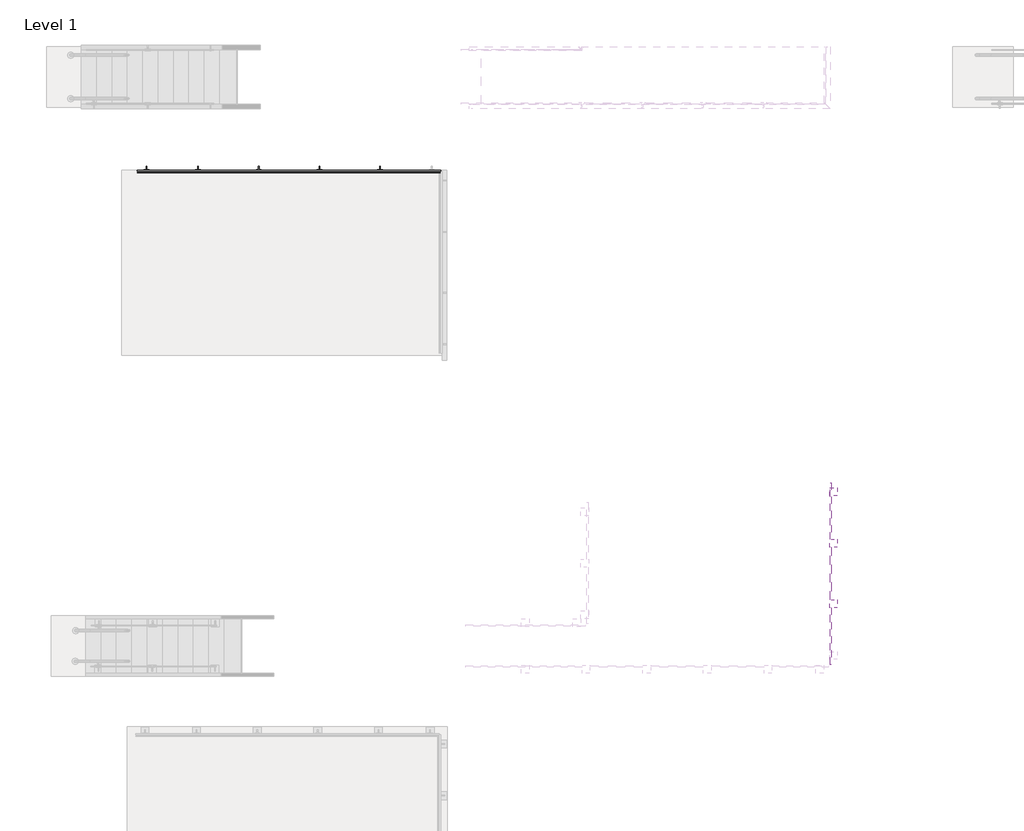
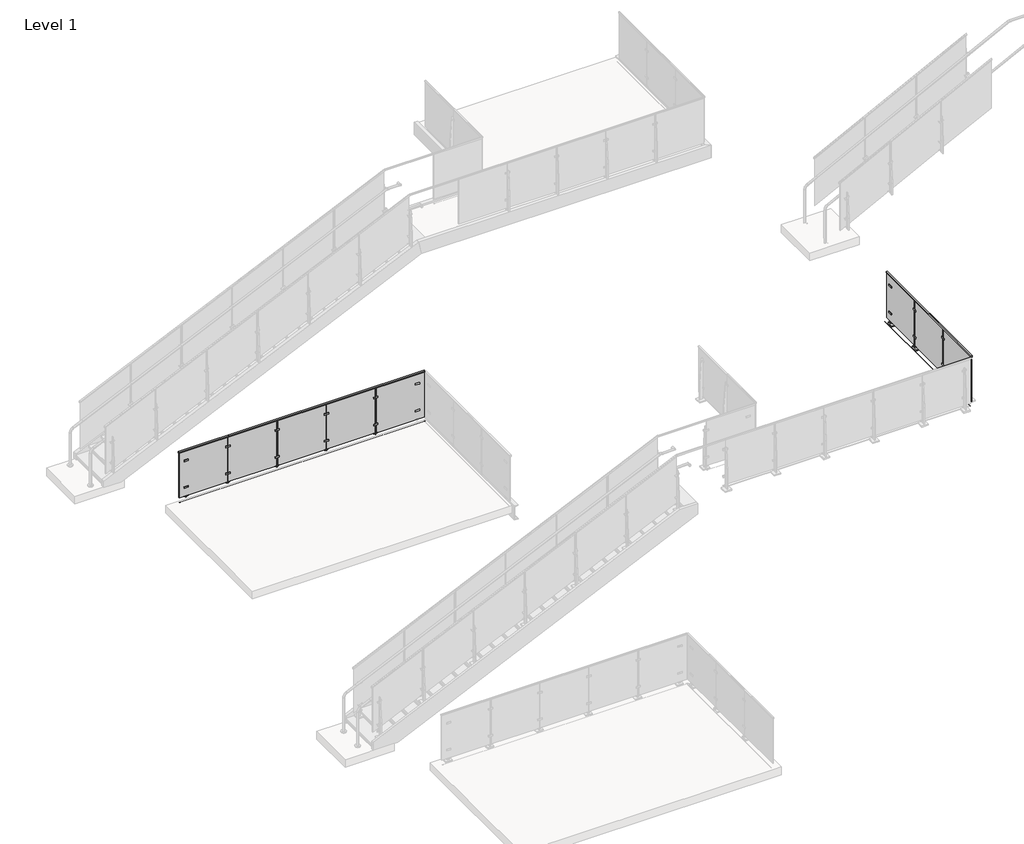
# One storey, part 13 of 37: 2 proxies, 2 railings.
"""IFC4 building model written with IfcOpenShell, lengths in millimetres."""

from ifc_helpers import new_model, si_unit, point, frame, frame_2d, origin, place, context, project, spatial, polyline, circle_curve, trimmed, segment, composite_curve, outline, extrude, transform, mapped, element, save
from components import baluster_end_post_viva_solo_top_mount_e11f810b, baluster_end_post_viva_solo_top_mount_welded_steel_channel_1b436ed5

model = new_model("IFC4")

# Units and contexts
model_context = context("Model", 3, world=origin())
ifc_project = project(units=[si_unit("LENGTHUNIT", "METRE", prefix="MILLI")], contexts=[model_context])

# Site, building, storey
site = spatial("IfcSite", under=ifc_project)
building = spatial("IfcBuilding", under=site)
storey = spatial("IfcBuildingStorey", under=building, Name="Level 1", Elevation=0.0)

# Proxies
placement = place(None, origin())
baluster_end_post_viva_solo_top_mount_shape = baluster_end_post_viva_solo_top_mount_e11f810b(model_context)
element("IfcBuildingElementProxy", 1, Name="Baluster-End-Post-VIVA-SOLO-Top Mount : ANCHORED TO CONCRETE_TOP MOUNT FOLD_STRAIGHT", ObjectType="Baluster-End-Post-VIVA-SOLO-Top Mount : ANCHORED TO CONCRETE_TOP MOUNT FOLD_STRAIGHT", at=placement, inside=storey, context=model_context, shape_type="MappedRepresentation", body=[
    mapped(baluster_end_post_viva_solo_top_mount_shape, transform((-1287.6055329, 6631.9636962, 3047.492), x_axis=(0.0, 1.0, 0.0), y_axis=(-1.0, 0.0, 0.0), z_axis=(0.0, 0.0, 1.0))),
])
baluster_end_post_viva_solo_top_mount_welded_steel_channel_shape = baluster_end_post_viva_solo_top_mount_welded_steel_channel_1b436ed5(model_context)
element("IfcBuildingElementProxy", 2, Name="Baluster-End-Post-VIVA-SOLO-Top Mount : WELDED STEEL CHANNEL_TOP MOUNT FOLD_STRAIGHT", ObjectType="Baluster-End-Post-VIVA-SOLO-Top Mount : WELDED STEEL CHANNEL_TOP MOUNT FOLD_STRAIGHT", at=placement, inside=storey, context=model_context, shape_type="MappedRepresentation", body=[
    mapped(baluster_end_post_viva_solo_top_mount_welded_steel_channel_shape, transform((-12860.5956451, 11817.5609615, -0.508), x_axis=(-1.0, 0.0, 0.0), y_axis=(0.0, -1.0, 0.0), z_axis=(0.0, 0.0, 1.0))),
])

# Railings
element("IfcRailing", 3, ObjectType="VIVA-SOLO-Glass-Top_Weld_Steel-Channel Mount-Straight", at=placement, inside=storey, context=model_context, shape_type="SweptSolid", body=[
    extrude(outline(composite_curve([segment(trimmed(circle_curve(frame_2d((11817.5609615, -0.254)), 0.254), [point((11817.3069615, -0.254))], [point((11817.8149615, -0.254))], False, "CARTESIAN"), True, "CONTINUOUS"), segment(trimmed(circle_curve(frame_2d((11817.5609615, -0.254)), 0.254), [point((11817.8149615, -0.254))], [point((11817.3069615, -0.254))], False, "CARTESIAN"), True, "CONTINUOUS")], self_intersect=False)), frame((-12860.5956451, 0.0, 0.0), z_axis=(1.0, 0.0, 0.0), x_axis=(0.0, 1.0, 0.0)), (0.0, 0.0, 1.0), 5080.0),
    extrude(outline(composite_curve([segment(trimmed(circle_curve(frame_2d((11817.5609615, -0.254)), 0.254), [point((11817.3069615, -0.254))], [point((11817.8149615, -0.254))], False, "CARTESIAN"), True, "CONTINUOUS"), segment(trimmed(circle_curve(frame_2d((11817.5609615, -0.254)), 0.254), [point((11817.8149615, -0.254))], [point((11817.3069615, -0.254))], False, "CARTESIAN"), True, "CONTINUOUS")], self_intersect=False)), frame((-12860.5956451, 0.0, 0.0), z_axis=(1.0, 0.0, 0.0), x_axis=(0.0, 1.0, 0.0)), (0.0, 0.0, 1.0), 5080.0),
    extrude(outline(polyline([(11842.6434615, 1079.5), (11864.8684615, 1079.5), (11864.8684615, 1054.1), (11860.1059615, 1054.1), (11860.1059615, 1074.7375), (11847.4059615, 1074.7375), (11847.4059615, 1054.1), (11842.6434615, 1054.1), (11842.6434615, 1079.5)])), frame((-12860.5956451, 0.0, 0.0), z_axis=(1.0, 0.0, 0.0), x_axis=(0.0, 1.0, 0.0)), (0.0, 0.0, 1.0), 5080.0),
    extrude(outline(polyline([(-8783.5125985, 11847.4059615), (-8783.5125985, 11860.1059615), (-7792.9125985, 11860.1059615), (-7792.9125985, 11847.4059615), (-8783.5125985, 11847.4059615)])), frame((0.0, 0.0, 76.2), z_axis=(0.0, 0.0, 1.0), x_axis=(1.0, 0.0, 0.0)), (0.0, 0.0, 1.0), 998.474),
    extrude(outline(polyline([(11869.6309615, 914.4), (11895.0309615, 914.4), (11933.1309615, 381.0), (11933.1309615, 38.1), (11869.6309615, 38.1), (11869.6309615, 914.4)])), frame((-8802.9456451, 0.0, 0.0), z_axis=(1.0, 0.0, 0.0), x_axis=(0.0, 1.0, 0.0)), (0.0, 0.0, 1.0), 12.7),
    extrude(outline(polyline([(-8841.0456451, 11860.1059615), (-8841.0456451, 11869.6309615), (-8752.1456451, 11869.6309615), (-8752.1456451, 11860.1059615), (-8841.0456451, 11860.1059615)])), frame((0.0, 0.0, 251.9910694), z_axis=(0.0, 0.0, 1.0), x_axis=(1.0, 0.0, 0.0)), (0.0, 0.0, 1.0), 31.75),
    extrude(outline(polyline([(-8841.0456451, 11860.1059615), (-8841.0456451, 11869.6309615), (-8752.1456451, 11869.6309615), (-8752.1456451, 11860.1059615), (-8841.0456451, 11860.1059615)])), frame((0.0, 0.0, 838.2992187), z_axis=(0.0, 0.0, 1.0), x_axis=(1.0, 0.0, 0.0)), (0.0, 0.0, 1.0), 31.75),
    extrude(outline(polyline([(-8841.0456451, 11837.8809615), (-8841.0456451, 11847.4059615), (-8752.1456451, 11847.4059615), (-8752.1456451, 11837.8809615), (-8841.0456451, 11837.8809615)])), frame((0.0, 0.0, 251.9910694), z_axis=(0.0, 0.0, 1.0), x_axis=(1.0, 0.0, 0.0)), (0.0, 0.0, 1.0), 31.75),
    extrude(outline(polyline([(-8841.0456451, 11837.8809615), (-8841.0456451, 11847.4059615), (-8752.1456451, 11847.4059615), (-8752.1456451, 11837.8809615), (-8841.0456451, 11837.8809615)])), frame((0.0, 0.0, 838.2992187), z_axis=(0.0, 0.0, 1.0), x_axis=(1.0, 0.0, 0.0)), (0.0, 0.0, 1.0), 31.75),
    extrude(outline(polyline([(76.2, -8752.1456451), (76.2, -8841.0456451), (69.85, -8841.0456451), (47.9353513, -8796.5956451), (69.85, -8752.1456451), (76.2, -8752.1456451)])), frame((0.0, 11847.4059615, 0.0), z_axis=(0.0, 1.0, 0.0), x_axis=(0.0, 0.0, 1.0)), (0.0, 0.0, 1.0), 12.7),
    extrude(outline(composite_curve([segment(trimmed(circle_curve(frame_2d((267.8660694, -8796.5956451)), 6.35), [point((267.8660694, -8790.2456451))], [point((267.8660694, -8802.9456451))], False, "CARTESIAN"), True, "CONTINUOUS"), segment(trimmed(circle_curve(frame_2d((267.8660694, -8796.5956451)), 6.35), [point((267.8660694, -8802.9456451))], [point((267.8660694, -8790.2456451))], False, "CARTESIAN"), True, "CONTINUOUS")], self_intersect=False)), frame((0.0, 11847.4059615, 0.0), z_axis=(0.0, 1.0, 0.0), x_axis=(0.0, 0.0, 1.0)), (0.0, 0.0, 1.0), 12.7),
    extrude(outline(composite_curve([segment(trimmed(circle_curve(frame_2d((854.1742187, -8796.5956451)), 6.35), [point((854.1742187, -8790.2456451))], [point((854.1742187, -8802.9456451))], False, "CARTESIAN"), True, "CONTINUOUS"), segment(trimmed(circle_curve(frame_2d((854.1742187, -8796.5956451)), 6.35), [point((854.1742187, -8802.9456451))], [point((854.1742187, -8790.2456451))], False, "CARTESIAN"), True, "CONTINUOUS")], self_intersect=False)), frame((0.0, 11847.4059615, 0.0), z_axis=(0.0, 1.0, 0.0), x_axis=(0.0, 0.0, 1.0)), (0.0, 0.0, 1.0), 12.7),
    extrude(outline(composite_curve([segment(trimmed(circle_curve(frame_2d((60.325, -8796.5956451)), 11.1125), [point((60.325, -8785.4831451))], [point((60.325, -8807.7081451))], False, "CARTESIAN"), True, "CONTINUOUS"), segment(trimmed(circle_curve(frame_2d((60.325, -8796.5956451)), 11.1125), [point((60.325, -8807.7081451))], [point((60.325, -8785.4831451))], False, "CARTESIAN"), True, "CONTINUOUS")], self_intersect=False)), frame((0.0, 11844.2309615, 0.0), z_axis=(0.0, 1.0, 0.0), x_axis=(0.0, 0.0, 1.0)), (0.0, 0.0, 1.0), 25.4),
    extrude(outline(polyline([(-9799.5125985, 11847.4059615), (-9799.5125985, 11860.1059615), (-8808.9125985, 11860.1059615), (-8808.9125985, 11847.4059615), (-9799.5125985, 11847.4059615)])), frame((0.0, 0.0, 76.2), z_axis=(0.0, 0.0, 1.0), x_axis=(1.0, 0.0, 0.0)), (0.0, 0.0, 1.0), 998.474),
    extrude(outline(polyline([(11869.6309615, 914.4), (11895.0309615, 914.4), (11933.1309615, 381.0), (11933.1309615, 38.1), (11869.6309615, 38.1), (11869.6309615, 914.4)])), frame((-9818.9456451, 0.0, 0.0), z_axis=(1.0, 0.0, 0.0), x_axis=(0.0, 1.0, 0.0)), (0.0, 0.0, 1.0), 12.7),
    extrude(outline(polyline([(-9857.0456451, 11860.1059615), (-9857.0456451, 11869.6309615), (-9768.1456451, 11869.6309615), (-9768.1456451, 11860.1059615), (-9857.0456451, 11860.1059615)])), frame((0.0, 0.0, 251.9910694), z_axis=(0.0, 0.0, 1.0), x_axis=(1.0, 0.0, 0.0)), (0.0, 0.0, 1.0), 31.75),
    extrude(outline(polyline([(-9857.0456451, 11860.1059615), (-9857.0456451, 11869.6309615), (-9768.1456451, 11869.6309615), (-9768.1456451, 11860.1059615), (-9857.0456451, 11860.1059615)])), frame((0.0, 0.0, 838.2992187), z_axis=(0.0, 0.0, 1.0), x_axis=(1.0, 0.0, 0.0)), (0.0, 0.0, 1.0), 31.75),
    extrude(outline(polyline([(-9857.0456451, 11837.8809615), (-9857.0456451, 11847.4059615), (-9768.1456451, 11847.4059615), (-9768.1456451, 11837.8809615), (-9857.0456451, 11837.8809615)])), frame((0.0, 0.0, 251.9910694), z_axis=(0.0, 0.0, 1.0), x_axis=(1.0, 0.0, 0.0)), (0.0, 0.0, 1.0), 31.75),
    extrude(outline(polyline([(-9857.0456451, 11837.8809615), (-9857.0456451, 11847.4059615), (-9768.1456451, 11847.4059615), (-9768.1456451, 11837.8809615), (-9857.0456451, 11837.8809615)])), frame((0.0, 0.0, 838.2992187), z_axis=(0.0, 0.0, 1.0), x_axis=(1.0, 0.0, 0.0)), (0.0, 0.0, 1.0), 31.75),
    extrude(outline(polyline([(76.2, -9768.1456451), (76.2, -9857.0456451), (69.85, -9857.0456451), (47.9353513, -9812.5956451), (69.85, -9768.1456451), (76.2, -9768.1456451)])), frame((0.0, 11847.4059615, 0.0), z_axis=(0.0, 1.0, 0.0), x_axis=(0.0, 0.0, 1.0)), (0.0, 0.0, 1.0), 12.7),
    extrude(outline(composite_curve([segment(trimmed(circle_curve(frame_2d((267.8660694, -9812.5956451)), 6.35), [point((267.8660694, -9806.2456451))], [point((267.8660694, -9818.9456451))], False, "CARTESIAN"), True, "CONTINUOUS"), segment(trimmed(circle_curve(frame_2d((267.8660694, -9812.5956451)), 6.35), [point((267.8660694, -9818.9456451))], [point((267.8660694, -9806.2456451))], False, "CARTESIAN"), True, "CONTINUOUS")], self_intersect=False)), frame((0.0, 11847.4059615, 0.0), z_axis=(0.0, 1.0, 0.0), x_axis=(0.0, 0.0, 1.0)), (0.0, 0.0, 1.0), 12.7),
    extrude(outline(composite_curve([segment(trimmed(circle_curve(frame_2d((854.1742187, -9812.5956451)), 6.35), [point((854.1742187, -9806.2456451))], [point((854.1742187, -9818.9456451))], False, "CARTESIAN"), True, "CONTINUOUS"), segment(trimmed(circle_curve(frame_2d((854.1742187, -9812.5956451)), 6.35), [point((854.1742187, -9818.9456451))], [point((854.1742187, -9806.2456451))], False, "CARTESIAN"), True, "CONTINUOUS")], self_intersect=False)), frame((0.0, 11847.4059615, 0.0), z_axis=(0.0, 1.0, 0.0), x_axis=(0.0, 0.0, 1.0)), (0.0, 0.0, 1.0), 12.7),
    extrude(outline(composite_curve([segment(trimmed(circle_curve(frame_2d((60.325, -9812.5956451)), 11.1125), [point((60.325, -9801.4831451))], [point((60.325, -9823.7081451))], False, "CARTESIAN"), True, "CONTINUOUS"), segment(trimmed(circle_curve(frame_2d((60.325, -9812.5956451)), 11.1125), [point((60.325, -9823.7081451))], [point((60.325, -9801.4831451))], False, "CARTESIAN"), True, "CONTINUOUS")], self_intersect=False)), frame((0.0, 11844.2309615, 0.0), z_axis=(0.0, 1.0, 0.0), x_axis=(0.0, 0.0, 1.0)), (0.0, 0.0, 1.0), 25.4),
    extrude(outline(polyline([(-10815.5125985, 11847.4059615), (-10815.5125985, 11860.1059615), (-9824.9125985, 11860.1059615), (-9824.9125985, 11847.4059615), (-10815.5125985, 11847.4059615)])), frame((0.0, 0.0, 76.2), z_axis=(0.0, 0.0, 1.0), x_axis=(1.0, 0.0, 0.0)), (0.0, 0.0, 1.0), 998.474),
    extrude(outline(polyline([(11869.6309615, 914.4), (11895.0309615, 914.4), (11933.1309615, 381.0), (11933.1309615, 38.1), (11869.6309615, 38.1), (11869.6309615, 914.4)])), frame((-10834.9456451, 0.0, 0.0), z_axis=(1.0, 0.0, 0.0), x_axis=(0.0, 1.0, 0.0)), (0.0, 0.0, 1.0), 12.7),
    extrude(outline(polyline([(-10873.0456451, 11860.1059615), (-10873.0456451, 11869.6309615), (-10784.1456451, 11869.6309615), (-10784.1456451, 11860.1059615), (-10873.0456451, 11860.1059615)])), frame((0.0, 0.0, 251.9910694), z_axis=(0.0, 0.0, 1.0), x_axis=(1.0, 0.0, 0.0)), (0.0, 0.0, 1.0), 31.75),
    extrude(outline(polyline([(-10873.0456451, 11860.1059615), (-10873.0456451, 11869.6309615), (-10784.1456451, 11869.6309615), (-10784.1456451, 11860.1059615), (-10873.0456451, 11860.1059615)])), frame((0.0, 0.0, 838.2992187), z_axis=(0.0, 0.0, 1.0), x_axis=(1.0, 0.0, 0.0)), (0.0, 0.0, 1.0), 31.75),
    extrude(outline(polyline([(-10873.0456451, 11837.8809615), (-10873.0456451, 11847.4059615), (-10784.1456451, 11847.4059615), (-10784.1456451, 11837.8809615), (-10873.0456451, 11837.8809615)])), frame((0.0, 0.0, 251.9910694), z_axis=(0.0, 0.0, 1.0), x_axis=(1.0, 0.0, 0.0)), (0.0, 0.0, 1.0), 31.75),
    extrude(outline(polyline([(-10873.0456451, 11837.8809615), (-10873.0456451, 11847.4059615), (-10784.1456451, 11847.4059615), (-10784.1456451, 11837.8809615), (-10873.0456451, 11837.8809615)])), frame((0.0, 0.0, 838.2992187), z_axis=(0.0, 0.0, 1.0), x_axis=(1.0, 0.0, 0.0)), (0.0, 0.0, 1.0), 31.75),
    extrude(outline(polyline([(76.2, -10784.1456451), (76.2, -10873.0456451), (69.85, -10873.0456451), (47.9353513, -10828.5956451), (69.85, -10784.1456451), (76.2, -10784.1456451)])), frame((0.0, 11847.4059615, 0.0), z_axis=(0.0, 1.0, 0.0), x_axis=(0.0, 0.0, 1.0)), (0.0, 0.0, 1.0), 12.7),
    extrude(outline(composite_curve([segment(trimmed(circle_curve(frame_2d((267.8660694, -10828.5956451)), 6.35), [point((267.8660694, -10822.2456451))], [point((267.8660694, -10834.9456451))], False, "CARTESIAN"), True, "CONTINUOUS"), segment(trimmed(circle_curve(frame_2d((267.8660694, -10828.5956451)), 6.35), [point((267.8660694, -10834.9456451))], [point((267.8660694, -10822.2456451))], False, "CARTESIAN"), True, "CONTINUOUS")], self_intersect=False)), frame((0.0, 11847.4059615, 0.0), z_axis=(0.0, 1.0, 0.0), x_axis=(0.0, 0.0, 1.0)), (0.0, 0.0, 1.0), 12.7),
    extrude(outline(composite_curve([segment(trimmed(circle_curve(frame_2d((854.1742187, -10828.5956451)), 6.35), [point((854.1742187, -10822.2456451))], [point((854.1742187, -10834.9456451))], False, "CARTESIAN"), True, "CONTINUOUS"), segment(trimmed(circle_curve(frame_2d((854.1742187, -10828.5956451)), 6.35), [point((854.1742187, -10834.9456451))], [point((854.1742187, -10822.2456451))], False, "CARTESIAN"), True, "CONTINUOUS")], self_intersect=False)), frame((0.0, 11847.4059615, 0.0), z_axis=(0.0, 1.0, 0.0), x_axis=(0.0, 0.0, 1.0)), (0.0, 0.0, 1.0), 12.7),
    extrude(outline(composite_curve([segment(trimmed(circle_curve(frame_2d((60.325, -10828.5956451)), 11.1125), [point((60.325, -10817.4831451))], [point((60.325, -10839.7081451))], False, "CARTESIAN"), True, "CONTINUOUS"), segment(trimmed(circle_curve(frame_2d((60.325, -10828.5956451)), 11.1125), [point((60.325, -10839.7081451))], [point((60.325, -10817.4831451))], False, "CARTESIAN"), True, "CONTINUOUS")], self_intersect=False)), frame((0.0, 11844.2309615, 0.0), z_axis=(0.0, 1.0, 0.0), x_axis=(0.0, 0.0, 1.0)), (0.0, 0.0, 1.0), 25.4),
    extrude(outline(polyline([(-11831.5125985, 11847.4059615), (-11831.5125985, 11860.1059615), (-10840.9125985, 11860.1059615), (-10840.9125985, 11847.4059615), (-11831.5125985, 11847.4059615)])), frame((0.0, 0.0, 76.2), z_axis=(0.0, 0.0, 1.0), x_axis=(1.0, 0.0, 0.0)), (0.0, 0.0, 1.0), 998.474),
    extrude(outline(polyline([(11869.6309615, 914.4), (11895.0309615, 914.4), (11933.1309615, 381.0), (11933.1309615, 38.1), (11869.6309615, 38.1), (11869.6309615, 914.4)])), frame((-11850.9456451, 0.0, 0.0), z_axis=(1.0, 0.0, 0.0), x_axis=(0.0, 1.0, 0.0)), (0.0, 0.0, 1.0), 12.7),
    extrude(outline(polyline([(-11889.0456451, 11860.1059615), (-11889.0456451, 11869.6309615), (-11800.1456451, 11869.6309615), (-11800.1456451, 11860.1059615), (-11889.0456451, 11860.1059615)])), frame((0.0, 0.0, 251.9910694), z_axis=(0.0, 0.0, 1.0), x_axis=(1.0, 0.0, 0.0)), (0.0, 0.0, 1.0), 31.75),
    extrude(outline(polyline([(-11889.0456451, 11860.1059615), (-11889.0456451, 11869.6309615), (-11800.1456451, 11869.6309615), (-11800.1456451, 11860.1059615), (-11889.0456451, 11860.1059615)])), frame((0.0, 0.0, 838.2992187), z_axis=(0.0, 0.0, 1.0), x_axis=(1.0, 0.0, 0.0)), (0.0, 0.0, 1.0), 31.75),
    extrude(outline(polyline([(-11889.0456451, 11837.8809615), (-11889.0456451, 11847.4059615), (-11800.1456451, 11847.4059615), (-11800.1456451, 11837.8809615), (-11889.0456451, 11837.8809615)])), frame((0.0, 0.0, 251.9910694), z_axis=(0.0, 0.0, 1.0), x_axis=(1.0, 0.0, 0.0)), (0.0, 0.0, 1.0), 31.75),
    extrude(outline(polyline([(-11889.0456451, 11837.8809615), (-11889.0456451, 11847.4059615), (-11800.1456451, 11847.4059615), (-11800.1456451, 11837.8809615), (-11889.0456451, 11837.8809615)])), frame((0.0, 0.0, 838.2992187), z_axis=(0.0, 0.0, 1.0), x_axis=(1.0, 0.0, 0.0)), (0.0, 0.0, 1.0), 31.75),
    extrude(outline(polyline([(76.2, -11800.1456451), (76.2, -11889.0456451), (69.85, -11889.0456451), (47.9353513, -11844.5956451), (69.85, -11800.1456451), (76.2, -11800.1456451)])), frame((0.0, 11847.4059615, 0.0), z_axis=(0.0, 1.0, 0.0), x_axis=(0.0, 0.0, 1.0)), (0.0, 0.0, 1.0), 12.7),
    extrude(outline(composite_curve([segment(trimmed(circle_curve(frame_2d((267.8660694, -11844.5956451)), 6.35), [point((267.8660694, -11838.2456451))], [point((267.8660694, -11850.9456451))], False, "CARTESIAN"), True, "CONTINUOUS"), segment(trimmed(circle_curve(frame_2d((267.8660694, -11844.5956451)), 6.35), [point((267.8660694, -11850.9456451))], [point((267.8660694, -11838.2456451))], False, "CARTESIAN"), True, "CONTINUOUS")], self_intersect=False)), frame((0.0, 11847.4059615, 0.0), z_axis=(0.0, 1.0, 0.0), x_axis=(0.0, 0.0, 1.0)), (0.0, 0.0, 1.0), 12.7),
    extrude(outline(composite_curve([segment(trimmed(circle_curve(frame_2d((854.1742187, -11844.5956451)), 6.35), [point((854.1742187, -11838.2456451))], [point((854.1742187, -11850.9456451))], False, "CARTESIAN"), True, "CONTINUOUS"), segment(trimmed(circle_curve(frame_2d((854.1742187, -11844.5956451)), 6.35), [point((854.1742187, -11850.9456451))], [point((854.1742187, -11838.2456451))], False, "CARTESIAN"), True, "CONTINUOUS")], self_intersect=False)), frame((0.0, 11847.4059615, 0.0), z_axis=(0.0, 1.0, 0.0), x_axis=(0.0, 0.0, 1.0)), (0.0, 0.0, 1.0), 12.7),
    extrude(outline(composite_curve([segment(trimmed(circle_curve(frame_2d((60.325, -11844.5956451)), 11.1125), [point((60.325, -11833.4831451))], [point((60.325, -11855.7081451))], False, "CARTESIAN"), True, "CONTINUOUS"), segment(trimmed(circle_curve(frame_2d((60.325, -11844.5956451)), 11.1125), [point((60.325, -11855.7081451))], [point((60.325, -11833.4831451))], False, "CARTESIAN"), True, "CONTINUOUS")], self_intersect=False)), frame((0.0, 11844.2309615, 0.0), z_axis=(0.0, 1.0, 0.0), x_axis=(0.0, 0.0, 1.0)), (0.0, 0.0, 1.0), 25.4),
    extrude(outline(polyline([(-12847.5125985, 11847.4059615), (-12847.5125985, 11860.1059615), (-11856.9125985, 11860.1059615), (-11856.9125985, 11847.4059615), (-12847.5125985, 11847.4059615)])), frame((0.0, 0.0, 76.2), z_axis=(0.0, 0.0, 1.0), x_axis=(1.0, 0.0, 0.0)), (0.0, 0.0, 1.0), 998.474),
])
element("IfcRailing", 4, ObjectType="VIVA-SOLO-Glass-Floor Mount-Straight", at=placement, inside=storey, context=model_context, shape_type="SweptSolid", body=[
    extrude(outline(composite_curve([segment(trimmed(circle_curve(frame_2d((3047.746, -1287.6055329)), 0.254), [point((3047.746, -1287.3515329))], [point((3047.746, -1287.8595329))], False, "CARTESIAN"), True, "CONTINUOUS"), segment(trimmed(circle_curve(frame_2d((3047.746, -1287.6055329)), 0.254), [point((3047.746, -1287.8595329))], [point((3047.746, -1287.3515329))], False, "CARTESIAN"), True, "CONTINUOUS")], self_intersect=False)), frame((0.0, 3583.9636962, 0.0), z_axis=(0.0, 1.0, 0.0), x_axis=(0.0, 0.0, 1.0)), (0.0, 0.0, 1.0), 3048.0),
    extrude(outline(composite_curve([segment(trimmed(circle_curve(frame_2d((3047.746, -1287.6055329)), 0.254), [point((3047.746, -1287.3515329))], [point((3047.746, -1287.8595329))], False, "CARTESIAN"), True, "CONTINUOUS"), segment(trimmed(circle_curve(frame_2d((3047.746, -1287.6055329)), 0.254), [point((3047.746, -1287.8595329))], [point((3047.746, -1287.3515329))], False, "CARTESIAN"), True, "CONTINUOUS")], self_intersect=False)), frame((0.0, 3583.9636962, 0.0), z_axis=(0.0, 1.0, 0.0), x_axis=(0.0, 0.0, 1.0)), (0.0, 0.0, 1.0), 3048.0),
    extrude(outline(polyline([(4127.5, -1240.2980329), (4127.5, -1262.5230329), (4102.1, -1262.5230329), (4102.1, -1257.7605329), (4122.7375, -1257.7605329), (4122.7375, -1245.0605329), (4102.1, -1245.0605329), (4102.1, -1240.2980329), (4127.5, -1240.2980329)])), frame((0.0, 3583.9636962, 0.0), z_axis=(0.0, 1.0, 0.0), x_axis=(0.0, 0.0, 1.0)), (0.0, 0.0, 1.0), 3048.0),
    extrude(outline(polyline([(-1257.7605329, 5629.0467428), (-1257.7605329, 6619.6467428), (-1245.0605329, 6619.6467428), (-1245.0605329, 5629.0467428), (-1257.7605329, 5629.0467428)])), frame((0.0, 0.0, 3124.2), z_axis=(0.0, 0.0, 1.0), x_axis=(1.0, 0.0, 0.0)), (0.0, 0.0, 1.0), 998.474),
    extrude(outline(polyline([(3962.4, -1235.5355329), (3048.0, -1235.5355329), (3048.0, -1172.0355329), (3429.0, -1172.0355329), (3962.4, -1210.1355329), (3962.4, -1235.5355329)])), frame((0.0, 5609.6136962, 0.0), z_axis=(0.0, 1.0, 0.0), x_axis=(0.0, 0.0, 1.0)), (0.0, 0.0, 1.0), 12.7),
    extrude(outline(polyline([(-1269.6667829, 5681.8449462), (-1137.9042829, 5681.8449462), (-1137.9042829, 5550.0824462), (-1269.6667829, 5550.0824462), (-1269.6667829, 5681.8449462)])), frame((0.0, 0.0, 3048.0), z_axis=(0.0, 0.0, 1.0), x_axis=(1.0, 0.0, 0.0)), (0.0, 0.0, 1.0), 25.4),
    extrude(outline(polyline([(-1245.0605329, 5571.5136962), (-1245.0605329, 5660.4136962), (-1235.5355329, 5660.4136962), (-1235.5355329, 5571.5136962), (-1245.0605329, 5571.5136962)])), frame((0.0, 0.0, 3299.9910694), z_axis=(0.0, 0.0, 1.0), x_axis=(1.0, 0.0, 0.0)), (0.0, 0.0, 1.0), 31.75),
    extrude(outline(polyline([(-1245.0605329, 5571.5136962), (-1245.0605329, 5660.4136962), (-1235.5355329, 5660.4136962), (-1235.5355329, 5571.5136962), (-1245.0605329, 5571.5136962)])), frame((0.0, 0.0, 3886.2992187), z_axis=(0.0, 0.0, 1.0), x_axis=(1.0, 0.0, 0.0)), (0.0, 0.0, 1.0), 31.75),
    extrude(outline(polyline([(-1267.2855329, 5571.5136962), (-1267.2855329, 5660.4136962), (-1257.7605329, 5660.4136962), (-1257.7605329, 5571.5136962), (-1267.2855329, 5571.5136962)])), frame((0.0, 0.0, 3299.9910694), z_axis=(0.0, 0.0, 1.0), x_axis=(1.0, 0.0, 0.0)), (0.0, 0.0, 1.0), 31.75),
    extrude(outline(polyline([(-1267.2855329, 5571.5136962), (-1267.2855329, 5660.4136962), (-1257.7605329, 5660.4136962), (-1257.7605329, 5571.5136962), (-1267.2855329, 5571.5136962)])), frame((0.0, 0.0, 3886.2992187), z_axis=(0.0, 0.0, 1.0), x_axis=(1.0, 0.0, 0.0)), (0.0, 0.0, 1.0), 31.75),
    extrude(outline(polyline([(5660.4136962, 3124.2), (5660.4136962, 3117.85), (5615.9636962, 3095.9353513), (5571.5136962, 3117.85), (5571.5136962, 3124.2), (5660.4136962, 3124.2)])), frame((-1257.7605329, 0.0, 0.0), z_axis=(1.0, 0.0, 0.0), x_axis=(0.0, 1.0, 0.0)), (0.0, 0.0, 1.0), 12.7),
    extrude(outline(composite_curve([segment(trimmed(circle_curve(frame_2d((5615.9636962, 3315.8660694)), 6.35), [point((5622.3136962, 3315.8660694))], [point((5609.6136962, 3315.8660694))], False, "CARTESIAN"), True, "CONTINUOUS"), segment(trimmed(circle_curve(frame_2d((5615.9636962, 3315.8660694)), 6.35), [point((5609.6136962, 3315.8660694))], [point((5622.3136962, 3315.8660694))], False, "CARTESIAN"), True, "CONTINUOUS")], self_intersect=False)), frame((-1257.7605329, 0.0, 0.0), z_axis=(1.0, 0.0, 0.0), x_axis=(0.0, 1.0, 0.0)), (0.0, 0.0, 1.0), 12.7),
    extrude(outline(composite_curve([segment(trimmed(circle_curve(frame_2d((5615.9636962, 3902.1742187)), 6.35), [point((5622.3136962, 3902.1742187))], [point((5609.6136962, 3902.1742187))], False, "CARTESIAN"), True, "CONTINUOUS"), segment(trimmed(circle_curve(frame_2d((5615.9636962, 3902.1742187)), 6.35), [point((5609.6136962, 3902.1742187))], [point((5622.3136962, 3902.1742187))], False, "CARTESIAN"), True, "CONTINUOUS")], self_intersect=False)), frame((-1257.7605329, 0.0, 0.0), z_axis=(1.0, 0.0, 0.0), x_axis=(0.0, 1.0, 0.0)), (0.0, 0.0, 1.0), 12.7),
    extrude(outline(composite_curve([segment(trimmed(circle_curve(frame_2d((5615.9636962, 3108.325)), 11.1125), [point((5627.0761962, 3108.325))], [point((5604.8511962, 3108.325))], False, "CARTESIAN"), True, "CONTINUOUS"), segment(trimmed(circle_curve(frame_2d((5615.9636962, 3108.325)), 11.1125), [point((5604.8511962, 3108.325))], [point((5627.0761962, 3108.325))], False, "CARTESIAN"), True, "CONTINUOUS")], self_intersect=False)), frame((-1260.9355329, 0.0, 0.0), z_axis=(1.0, 0.0, 0.0), x_axis=(0.0, 1.0, 0.0)), (0.0, 0.0, 1.0), 25.4),
    extrude(outline(polyline([(-1257.7605329, 4613.0467428), (-1257.7605329, 5603.6467428), (-1245.0605329, 5603.6467428), (-1245.0605329, 4613.0467428), (-1257.7605329, 4613.0467428)])), frame((0.0, 0.0, 3124.2), z_axis=(0.0, 0.0, 1.0), x_axis=(1.0, 0.0, 0.0)), (0.0, 0.0, 1.0), 998.474),
    extrude(outline(polyline([(3962.4, -1235.5355329), (3048.0, -1235.5355329), (3048.0, -1172.0355329), (3429.0, -1172.0355329), (3962.4, -1210.1355329), (3962.4, -1235.5355329)])), frame((0.0, 4593.6136962, 0.0), z_axis=(0.0, 1.0, 0.0), x_axis=(0.0, 0.0, 1.0)), (0.0, 0.0, 1.0), 12.7),
    extrude(outline(polyline([(-1269.6667829, 4665.8449462), (-1137.9042829, 4665.8449462), (-1137.9042829, 4534.0824462), (-1269.6667829, 4534.0824462), (-1269.6667829, 4665.8449462)])), frame((0.0, 0.0, 3048.0), z_axis=(0.0, 0.0, 1.0), x_axis=(1.0, 0.0, 0.0)), (0.0, 0.0, 1.0), 25.4),
    extrude(outline(polyline([(-1245.0605329, 4555.5136962), (-1245.0605329, 4644.4136962), (-1235.5355329, 4644.4136962), (-1235.5355329, 4555.5136962), (-1245.0605329, 4555.5136962)])), frame((0.0, 0.0, 3299.9910694), z_axis=(0.0, 0.0, 1.0), x_axis=(1.0, 0.0, 0.0)), (0.0, 0.0, 1.0), 31.75),
    extrude(outline(polyline([(-1245.0605329, 4555.5136962), (-1245.0605329, 4644.4136962), (-1235.5355329, 4644.4136962), (-1235.5355329, 4555.5136962), (-1245.0605329, 4555.5136962)])), frame((0.0, 0.0, 3886.2992187), z_axis=(0.0, 0.0, 1.0), x_axis=(1.0, 0.0, 0.0)), (0.0, 0.0, 1.0), 31.75),
    extrude(outline(polyline([(-1267.2855329, 4555.5136962), (-1267.2855329, 4644.4136962), (-1257.7605329, 4644.4136962), (-1257.7605329, 4555.5136962), (-1267.2855329, 4555.5136962)])), frame((0.0, 0.0, 3299.9910694), z_axis=(0.0, 0.0, 1.0), x_axis=(1.0, 0.0, 0.0)), (0.0, 0.0, 1.0), 31.75),
    extrude(outline(polyline([(-1267.2855329, 4555.5136962), (-1267.2855329, 4644.4136962), (-1257.7605329, 4644.4136962), (-1257.7605329, 4555.5136962), (-1267.2855329, 4555.5136962)])), frame((0.0, 0.0, 3886.2992187), z_axis=(0.0, 0.0, 1.0), x_axis=(1.0, 0.0, 0.0)), (0.0, 0.0, 1.0), 31.75),
    extrude(outline(polyline([(4644.4136962, 3124.2), (4644.4136962, 3117.85), (4599.9636962, 3095.9353513), (4555.5136962, 3117.85), (4555.5136962, 3124.2), (4644.4136962, 3124.2)])), frame((-1257.7605329, 0.0, 0.0), z_axis=(1.0, 0.0, 0.0), x_axis=(0.0, 1.0, 0.0)), (0.0, 0.0, 1.0), 12.7),
    extrude(outline(composite_curve([segment(trimmed(circle_curve(frame_2d((4599.9636962, 3315.8660694)), 6.35), [point((4606.3136962, 3315.8660694))], [point((4593.6136962, 3315.8660694))], False, "CARTESIAN"), True, "CONTINUOUS"), segment(trimmed(circle_curve(frame_2d((4599.9636962, 3315.8660694)), 6.35), [point((4593.6136962, 3315.8660694))], [point((4606.3136962, 3315.8660694))], False, "CARTESIAN"), True, "CONTINUOUS")], self_intersect=False)), frame((-1257.7605329, 0.0, 0.0), z_axis=(1.0, 0.0, 0.0), x_axis=(0.0, 1.0, 0.0)), (0.0, 0.0, 1.0), 12.7),
    extrude(outline(composite_curve([segment(trimmed(circle_curve(frame_2d((4599.9636962, 3902.1742187)), 6.35), [point((4606.3136962, 3902.1742187))], [point((4593.6136962, 3902.1742187))], False, "CARTESIAN"), True, "CONTINUOUS"), segment(trimmed(circle_curve(frame_2d((4599.9636962, 3902.1742187)), 6.35), [point((4593.6136962, 3902.1742187))], [point((4606.3136962, 3902.1742187))], False, "CARTESIAN"), True, "CONTINUOUS")], self_intersect=False)), frame((-1257.7605329, 0.0, 0.0), z_axis=(1.0, 0.0, 0.0), x_axis=(0.0, 1.0, 0.0)), (0.0, 0.0, 1.0), 12.7),
    extrude(outline(composite_curve([segment(trimmed(circle_curve(frame_2d((4599.9636962, 3108.325)), 11.1125), [point((4611.0761962, 3108.325))], [point((4588.8511962, 3108.325))], False, "CARTESIAN"), True, "CONTINUOUS"), segment(trimmed(circle_curve(frame_2d((4599.9636962, 3108.325)), 11.1125), [point((4588.8511962, 3108.325))], [point((4611.0761962, 3108.325))], False, "CARTESIAN"), True, "CONTINUOUS")], self_intersect=False)), frame((-1260.9355329, 0.0, 0.0), z_axis=(1.0, 0.0, 0.0), x_axis=(0.0, 1.0, 0.0)), (0.0, 0.0, 1.0), 25.4),
    extrude(outline(polyline([(-1257.7605329, 3597.0467428), (-1257.7605329, 4587.6467428), (-1245.0605329, 4587.6467428), (-1245.0605329, 3597.0467428), (-1257.7605329, 3597.0467428)])), frame((0.0, 0.0, 3124.2), z_axis=(0.0, 0.0, 1.0), x_axis=(1.0, 0.0, 0.0)), (0.0, 0.0, 1.0), 998.474),
])

save(model, "model.ifc")
